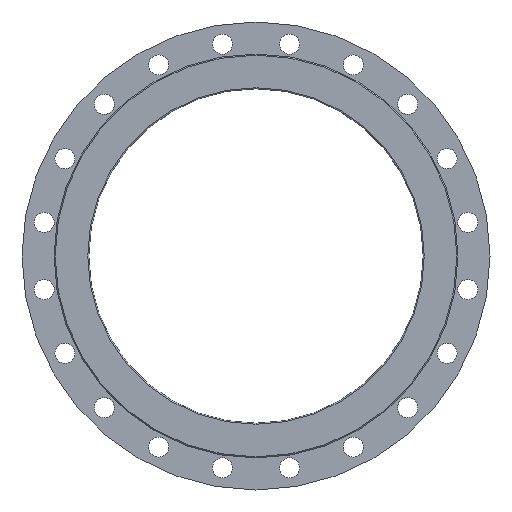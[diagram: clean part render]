
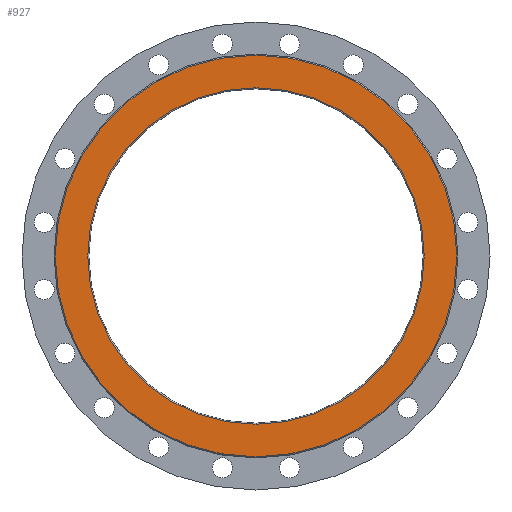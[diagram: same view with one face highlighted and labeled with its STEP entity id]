
A CAD part, left-side view. The second image highlights one B-rep face of the part: STEP entity #927.
In plain terms, the highlighted planar face has unit normal (-1, 0, 0).
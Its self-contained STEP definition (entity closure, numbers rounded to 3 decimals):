
#919 = EDGE_CURVE ( 'NONE', #3694, #3759, #1816, .T. ) ;
#920 = EDGE_LOOP ( 'NONE', ( #924, #929 ) ) ;
#921 = ORIENTED_EDGE ( 'NONE', *, *, #3933, .T. ) ;
#924 = ORIENTED_EDGE ( 'NONE', *, *, #3764, .T. ) ;
#927 = ADVANCED_FACE ( 'NONE', ( #1886, #1868 ), #2032, .F. ) ;
#928 = EDGE_CURVE ( 'NONE', #3880, #3907, #1872, .T. ) ;
#929 = ORIENTED_EDGE ( 'NONE', *, *, #919, .T. ) ;
#931 = EDGE_LOOP ( 'NONE', ( #932, #921 ) ) ;
#932 = ORIENTED_EDGE ( 'NONE', *, *, #928, .T. ) ;
#1816 = CIRCLE ( 'NONE', #1825, 302. ) ;
#1825 = AXIS2_PLACEMENT_3D ( 'NONE', #1860, #1841, #1840 ) ;
#1840 = DIRECTION ( 'NONE',  ( 0., 0., -1. ) ) ;
#1841 = DIRECTION ( 'NONE',  ( 1., 0., 0. ) ) ;
#1860 = CARTESIAN_POINT ( 'NONE',  ( -125., 0., 0. ) ) ;
#1863 = DIRECTION ( 'NONE',  ( -1., 0., 0. ) ) ;
#1868 = FACE_BOUND ( 'NONE', #920, .T. ) ;
#1869 = CARTESIAN_POINT ( 'NONE',  ( -125., 0., 0. ) ) ;
#1872 = CIRCLE ( 'NONE', #1894, 360.5 ) ;
#1886 = FACE_OUTER_BOUND ( 'NONE', #931, .T. ) ;
#1894 = AXIS2_PLACEMENT_3D ( 'NONE', #1869, #1863, #1897 ) ;
#1897 = DIRECTION ( 'NONE',  ( 0., 0., -1. ) ) ;
#2032 = PLANE ( 'NONE',  #2039 ) ;
#2039 = AXIS2_PLACEMENT_3D ( 'NONE', #2055, #2056, #2052 ) ;
#2052 = DIRECTION ( 'NONE',  ( 0., 0., -1. ) ) ;
#2055 = CARTESIAN_POINT ( 'NONE',  ( -125., 362.5, 0. ) ) ;
#2056 = DIRECTION ( 'NONE',  ( 1., 0., 0. ) ) ;
#2458 = CARTESIAN_POINT ( 'NONE',  ( -125., 0., 302. ) ) ;
#2559 = DIRECTION ( 'NONE',  ( 0., 0., -1. ) ) ;
#2560 = DIRECTION ( 'NONE',  ( 1., 0., 0. ) ) ;
#2561 = CARTESIAN_POINT ( 'NONE',  ( -125., 0., 0. ) ) ;
#2562 = AXIS2_PLACEMENT_3D ( 'NONE', #2561, #2560, #2559 ) ;
#2566 = CARTESIAN_POINT ( 'NONE',  ( -125., 0., -302. ) ) ;
#2571 = CIRCLE ( 'NONE', #2562, 302. ) ;
#2803 = CARTESIAN_POINT ( 'NONE',  ( -125., 0., -360.5 ) ) ;
#2835 = CARTESIAN_POINT ( 'NONE',  ( -125., 0., 360.5 ) ) ;
#3046 = DIRECTION ( 'NONE',  ( 0., 0., -1. ) ) ;
#3047 = DIRECTION ( 'NONE',  ( -1., 0., 0. ) ) ;
#3048 = CARTESIAN_POINT ( 'NONE',  ( -125., 0., 0. ) ) ;
#3057 = AXIS2_PLACEMENT_3D ( 'NONE', #3048, #3047, #3046 ) ;
#3059 = CIRCLE ( 'NONE', #3057, 360.5 ) ;
#3694 = VERTEX_POINT ( 'NONE', #2458 ) ;
#3759 = VERTEX_POINT ( 'NONE', #2566 ) ;
#3764 = EDGE_CURVE ( 'NONE', #3759, #3694, #2571, .T. ) ;
#3880 = VERTEX_POINT ( 'NONE', #2803 ) ;
#3907 = VERTEX_POINT ( 'NONE', #2835 ) ;
#3933 = EDGE_CURVE ( 'NONE', #3907, #3880, #3059, .T. ) ;
